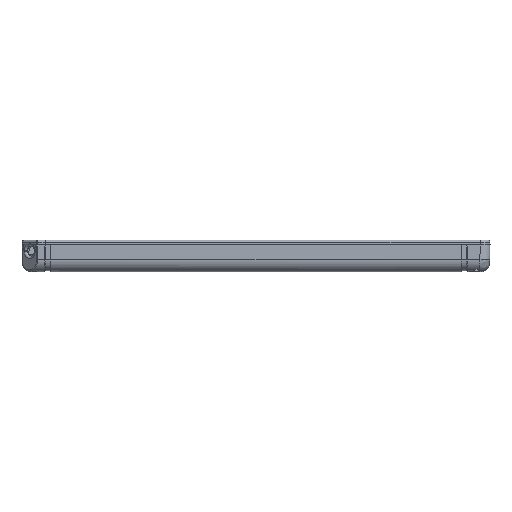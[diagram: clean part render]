
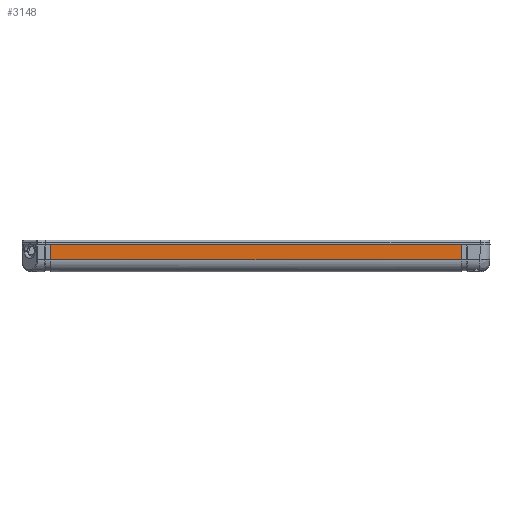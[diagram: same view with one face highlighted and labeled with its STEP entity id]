
A CAD part, left-side view. The second image highlights one B-rep face of the part: STEP entity #3148.
In plain terms, the highlighted planar face has unit normal (-1, 0, -0.018).
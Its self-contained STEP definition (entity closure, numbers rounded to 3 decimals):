
#254=(
BOUNDED_CURVE()
B_SPLINE_CURVE(2,(#49805,#49806,#49807),.UNSPECIFIED.,.F.,.F.)
B_SPLINE_CURVE_WITH_KNOTS((3,3),(0.,1.),.UNSPECIFIED.)
CURVE()
GEOMETRIC_REPRESENTATION_ITEM()
RATIONAL_B_SPLINE_CURVE((1.055,1.055,1.055))
REPRESENTATION_ITEM('')
);
#255=(
BOUNDED_CURVE()
B_SPLINE_CURVE(2,(#49808,#49809,#49810),.UNSPECIFIED.,.F.,.F.)
B_SPLINE_CURVE_WITH_KNOTS((3,3),(0.,1.),.UNSPECIFIED.)
CURVE()
GEOMETRIC_REPRESENTATION_ITEM()
RATIONAL_B_SPLINE_CURVE((1.055,1.055,1.055))
REPRESENTATION_ITEM('')
);
#1498=FACE_OUTER_BOUND('',#7240,.T.);
#3148=ADVANCED_FACE('',(#1498),#4710,.F.);
#4710=PLANE('',#33905);
#7240=EDGE_LOOP('',(#12107,#12108,#12109,#12110));
#12107=ORIENTED_EDGE('',*,*,#22697,.F.);
#12108=ORIENTED_EDGE('',*,*,#22647,.T.);
#12109=ORIENTED_EDGE('',*,*,#22698,.F.);
#12110=ORIENTED_EDGE('',*,*,#22660,.F.);
#18963=VERTEX_POINT('',#49694);
#18964=VERTEX_POINT('',#49696);
#18976=VERTEX_POINT('',#49726);
#18977=VERTEX_POINT('',#49728);
#22647=EDGE_CURVE('',#18964,#18963,#27184,.T.);
#22660=EDGE_CURVE('',#18976,#18977,#27191,.T.);
#22697=EDGE_CURVE('',#18964,#18976,#254,.T.);
#22698=EDGE_CURVE('',#18977,#18963,#255,.T.);
#27184=LINE('',#49695,#30590);
#27191=LINE('',#49727,#30597);
#30590=VECTOR('',#38754,1.);
#30597=VECTOR('',#38767,1.);
#33905=AXIS2_PLACEMENT_3D('',#49811,#38815,#38816);
#38754=DIRECTION('',(0.,1.,0.));
#38767=DIRECTION('',(0.,1.,0.));
#38815=DIRECTION('',(1.,0.,0.017));
#38816=DIRECTION('',(0.,1.,0.));
#49694=CARTESIAN_POINT('',(-15.,83.4,-2.));
#49695=CARTESIAN_POINT('',(-15.,-83.55,-2.));
#49696=CARTESIAN_POINT('',(-15.,-83.4,-2.));
#49726=CARTESIAN_POINT('',(-14.894,-83.4,-8.087));
#49727=CARTESIAN_POINT('',(-14.894,-83.55,-8.087));
#49728=CARTESIAN_POINT('',(-14.894,83.4,-8.087));
#49805=CARTESIAN_POINT('',(-15.,-83.4,-2.));
#49806=CARTESIAN_POINT('',(-14.947,-83.4,-5.044));
#49807=CARTESIAN_POINT('',(-14.894,-83.4,-8.087));
#49808=CARTESIAN_POINT('',(-14.894,83.4,-8.087));
#49809=CARTESIAN_POINT('',(-14.947,83.4,-5.044));
#49810=CARTESIAN_POINT('',(-15.,83.4,-2.));
#49811=CARTESIAN_POINT('',(-15.,-98.756,-2.));
